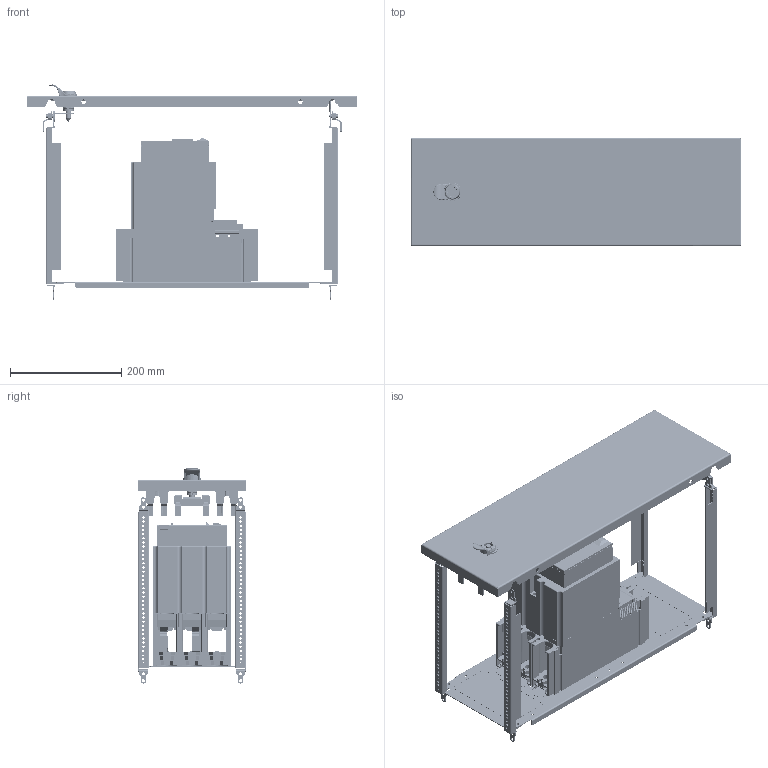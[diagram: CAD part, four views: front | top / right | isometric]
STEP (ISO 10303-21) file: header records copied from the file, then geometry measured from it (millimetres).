
FILE_DESCRIPTION(('CAx-IF Rec.Pracs.---Model Styling and Organization---1.2---2011-12-15','CAx-IF Rec.Pracs.---Geometric and Assembly Validation Properties---4.1---2014-06-16','CAx-IF Rec.Pracs.---PMI Polyline Presentation---2.0---2013-05-24'),'2;1');
FILE_NAME('R5PKEB7H62116 (F-MO).stp','2021-07-29T02:13:16+03:00',(''),(''),'STEP Interface 4.4 by CT CoreTechnologie','3D_Evolution4.4 by CT CoreTechnologie','');
FILE_SCHEMA(('AUTOMOTIVE_DESIGN { 1 0 10303 214 1 1 1 1 }'));
Length unit declared in the file: millimetre
Products named in the file (1): R5PKEB7H62116 (F-MO)
Bounding box: 594 x 195 x 386.9 mm (x, y, z)
Surface area: 1563011.2 mm2 (no closed solid volume)
Topology: 0 solids, 99 shells, 6967 faces, 20278 edges, 13415 vertices
Faces by surface type: plane 4274, cylinder 2223, bspline 470
Entity records: 242003 total; most frequent: CARTESIAN_POINT 55039, ORIENTED_EDGE 40406, DIRECTION 37544, EDGE_CURVE 20208, VECTOR 15016, LINE 15016, VERTEX_POINT 13443, AXIS2_PLACEMENT_3D 11264
